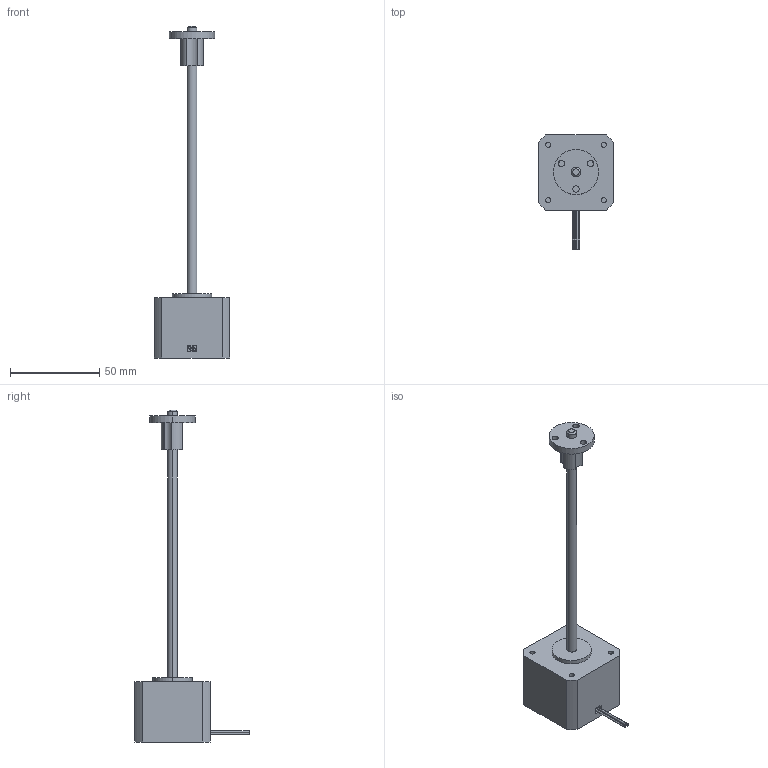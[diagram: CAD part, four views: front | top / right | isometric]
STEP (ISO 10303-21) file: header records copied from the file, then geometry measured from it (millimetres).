
FILE_DESCRIPTION (( 'STEP AP214' ), '1' );
FILE_NAME ('AMETEK-E43H4N-2.33-6-12-PTFE-M3.STEP', '2019-06-02T09:22:15', ( '' ), ( '' ), 'SwSTEP 2.0', 'SolidWorks 2019', '' );
FILE_SCHEMA (( 'AUTOMOTIVE_DESIGN' ));
Length unit declared in the file: inch
Products named in the file (3): AMETEK-E43H4N-2.33-6-12-PTFE-M3_43000_External_Linear_None; AMETEK-E43H4N-2.33-6-12-PTFE-M3; AMETEK-E43H4N-2.33-6-12-PTFE-M3_43000_External_Linear_Nut
Assembly tree (2 placements, depth 2):
  AMETEK-E43H4N-2.33-6-12-PTFE-M3
    AMETEK-E43H4N-2.33-6-12-PTFE-M3_43000_External_Linear_None
    AMETEK-E43H4N-2.33-6-12-PTFE-M3_43000_External_Linear_Nut
Bounding box: 42.2 x 64.03 x 186.2 mm (x, y, z)
Volume: 65627.1 mm3; surface area: 15103.3 mm2
Topology: 2 solids, 2 shells, 74 faces, 166 edges, 110 vertices
Faces by surface type: cylinder 46, plane 26, cone 2
Entity records: 2937 total; most frequent: DIRECTION 418, CARTESIAN_POINT 355, ORIENTED_EDGE 332, AXIS2_PLACEMENT_3D 173, EDGE_CURVE 166, VERTEX_POINT 110, EDGE_LOOP 96, CIRCLE 94
